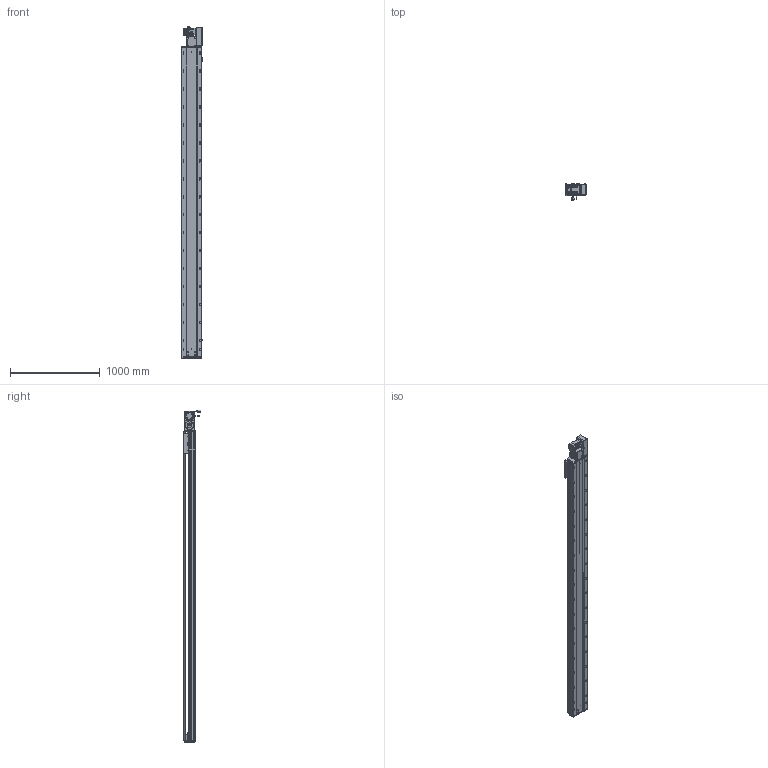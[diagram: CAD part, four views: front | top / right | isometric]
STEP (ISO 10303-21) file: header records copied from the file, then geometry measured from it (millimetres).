
FILE_DESCRIPTION (( 'STEP AP203' ), '1' );
FILE_NAME ('RY220-T-300-RK.SLDASM_3100.step', '2022-07-25T08:25:57', ( '' ), ( '' ), 'SwSTEP 2.0', 'SolidWorks 2016', '' );
FILE_SCHEMA (( 'CONFIG_CONTROL_DESIGN' ));
Length unit declared in the file: millimetre
Products named in the file (14): RY220-T菁釱-300_3100; 覜茼ん672; RY220-T-300-奻裔啣_3100; RY220-T-湍謫欶(鍼踢); RY220圉猾敕々湍臏賑輸; 滅袉蝶18-15; 怢湛750W_ECMA-CX0807ES; RY220-俋离672覜茼んえ; RY220-T-蛌殏萇儂假蚾啣(750W); 110A-T-肮祭謫釱傷裔; RY220翋肮祭謫釱; RY220-T-300-RK.SLDASM_3100; RY220-同步轮副支撑座6304×2; RY220翋肮祭謫裔啣
Assembly tree (18 placements, depth 2):
  RY220-T-300-RK.SLDASM_3100
    RY220-T菁釱-300_3100
    RY220翋肮祭謫釱
    覜茼ん672  x3
    RY220圉猾敕々湍臏賑輸
    RY220-T-300-奻裔啣_3100
    RY220-俋离672覜茼んえ
    滅袉蝶18-15  x3
    RY220翋肮祭謫裔啣  x2
    110A-T-肮祭謫釱傷裔
    怢湛750W_ECMA-CX0807ES
    RY220-T-湍謫欶(鍼踢)
    RY220-T-蛌殏萇儂假蚾啣(750W)
    RY220-同步轮副支撑座6304×2
Bounding box: 238.7 x 198.77 x 3695.24 mm (x, y, z)
Volume: 25848653.1 mm3; surface area: 8010589.9 mm2
Topology: 19 solids, 19 shells, 3058 faces, 8463 edges, 5292 vertices
Faces by surface type: cylinder 1518, plane 1069, cone 389, bspline 56, sphere 16, torus 10
Entity records: 102035 total; most frequent: CARTESIAN_POINT 28749, ORIENTED_EDGE 15130, DIRECTION 14648, EDGE_CURVE 7565, AXIS2_PLACEMENT_3D 5300, VERTEX_POINT 4916, LINE 4048, VECTOR 4048
